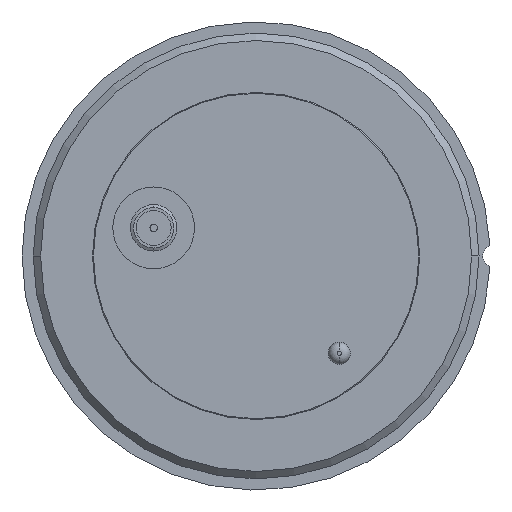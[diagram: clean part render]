
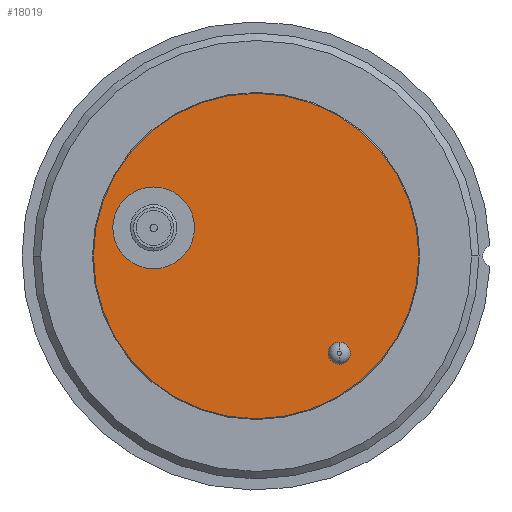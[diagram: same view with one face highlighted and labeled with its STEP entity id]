
A CAD part, front view. The second image highlights one B-rep face of the part: STEP entity #18019.
In plain terms, the highlighted planar face has unit normal (0, -1, 0).
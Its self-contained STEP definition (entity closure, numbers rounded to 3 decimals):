
#1100 = PLANE ( 'NONE',  #13354 ) ;
#1102 = FACE_BOUND ( 'NONE', #21698, .T. ) ;
#1103 = FACE_BOUND ( 'NONE', #21691, .T. ) ;
#1107 = CARTESIAN_POINT ( 'NONE',  ( -15.75, 0., 0. ) ) ;
#1108 = FACE_OUTER_BOUND ( 'NONE', #21699, .T. ) ;
#1109 = DIRECTION ( 'NONE',  ( 0., -1., 0. ) ) ;
#1110 = DIRECTION ( 'NONE',  ( 1., 0., 0. ) ) ;
#5593 = CARTESIAN_POINT ( 'NONE',  ( 11.2, 0., -13.1 ) ) ;
#5594 = DIRECTION ( 'NONE',  ( 0., -1., 0. ) ) ;
#5595 = DIRECTION ( 'NONE',  ( 1., 0., 0. ) ) ;
#9728 = CARTESIAN_POINT ( 'NONE',  ( -13.789, 0., 3.789 ) ) ;
#9730 = DIRECTION ( 'NONE',  ( 0., -1., 0. ) ) ;
#9731 = DIRECTION ( 'NONE',  ( 0., 0., 1. ) ) ;
#12782 = AXIS2_PLACEMENT_3D ( 'NONE', #14018, #14019, #14020 ) ;
#12783 = CIRCLE ( 'NONE', #12782, 21.9 ) ;
#13354 = AXIS2_PLACEMENT_3D ( 'NONE', #1107, #1109, #1110 ) ;
#13555 = EDGE_CURVE ( 'NONE', #31828, #31824, #14910, .T. ) ;
#13556 = EDGE_CURVE ( 'NONE', #18499, #18497, #14906, .T. ) ;
#13557 = EDGE_CURVE ( 'NONE', #18503, #18502, #14899, .T. ) ;
#14018 = CARTESIAN_POINT ( 'NONE',  ( 0., 0., 0. ) ) ;
#14019 = DIRECTION ( 'NONE',  ( 0., 1., 0. ) ) ;
#14020 = DIRECTION ( 'NONE',  ( -1., 0., 0. ) ) ;
#14894 = AXIS2_PLACEMENT_3D ( 'NONE', #23984, #23986, #23988 ) ;
#14896 = AXIS2_PLACEMENT_3D ( 'NONE', #23970, #23973, #23976 ) ;
#14898 = AXIS2_PLACEMENT_3D ( 'NONE', #23960, #23962, #23964 ) ;
#14899 = CIRCLE ( 'NONE', #14894, 5.5 ) ;
#14906 = CIRCLE ( 'NONE', #14896, 1.5 ) ;
#14910 = CIRCLE ( 'NONE', #14898, 21.9 ) ;
#17840 = EDGE_CURVE ( 'NONE', #31824, #31828, #12783, .T. ) ;
#18019 = ADVANCED_FACE ( 'NONE', ( #1102, #1103, #1108 ), #1100, .T. ) ;
#18497 = VERTEX_POINT ( 'NONE', #42555 ) ;
#18499 = VERTEX_POINT ( 'NONE', #42559 ) ;
#18502 = VERTEX_POINT ( 'NONE', #42565 ) ;
#18503 = VERTEX_POINT ( 'NONE', #42567 ) ;
#21691 = EDGE_LOOP ( 'NONE', ( #49819, #49818 ) ) ;
#21698 = EDGE_LOOP ( 'NONE', ( #49821, #49820 ) ) ;
#21699 = EDGE_LOOP ( 'NONE', ( #49817, #49816 ) ) ;
#23960 = CARTESIAN_POINT ( 'NONE',  ( 0., 0., 0. ) ) ;
#23962 = DIRECTION ( 'NONE',  ( 0., 1., 0. ) ) ;
#23964 = DIRECTION ( 'NONE',  ( -1., 0., 0. ) ) ;
#23970 = CARTESIAN_POINT ( 'NONE',  ( 11.2, 0., -13.1 ) ) ;
#23973 = DIRECTION ( 'NONE',  ( 0., -1., 0. ) ) ;
#23976 = DIRECTION ( 'NONE',  ( 1., 0., 0. ) ) ;
#23984 = CARTESIAN_POINT ( 'NONE',  ( -13.789, 0., 3.789 ) ) ;
#23986 = DIRECTION ( 'NONE',  ( 0., -1., 0. ) ) ;
#23988 = DIRECTION ( 'NONE',  ( 0., 0., 1. ) ) ;
#31824 = VERTEX_POINT ( 'NONE', #61320 ) ;
#31828 = VERTEX_POINT ( 'NONE', #61326 ) ;
#42555 = CARTESIAN_POINT ( 'NONE',  ( 11.2, 0., -14.6 ) ) ;
#42559 = CARTESIAN_POINT ( 'NONE',  ( 11.2, 0., -11.6 ) ) ;
#42565 = CARTESIAN_POINT ( 'NONE',  ( -13.789, 0., 9.289 ) ) ;
#42567 = CARTESIAN_POINT ( 'NONE',  ( -13.789, 0., -1.711 ) ) ;
#49816 = ORIENTED_EDGE ( 'NONE', *, *, #13555, .F. ) ;
#49817 = ORIENTED_EDGE ( 'NONE', *, *, #17840, .F. ) ;
#49818 = ORIENTED_EDGE ( 'NONE', *, *, #53560, .F. ) ;
#49819 = ORIENTED_EDGE ( 'NONE', *, *, #13557, .F. ) ;
#49820 = ORIENTED_EDGE ( 'NONE', *, *, #55691, .F. ) ;
#49821 = ORIENTED_EDGE ( 'NONE', *, *, #13556, .F. ) ;
#53560 = EDGE_CURVE ( 'NONE', #18502, #18503, #66294, .T. ) ;
#55691 = EDGE_CURVE ( 'NONE', #18497, #18499, #66748, .T. ) ;
#61320 = CARTESIAN_POINT ( 'NONE',  ( -21.9, 0., 0. ) ) ;
#61326 = CARTESIAN_POINT ( 'NONE',  ( 21.9, 0., 0. ) ) ;
#66294 = CIRCLE ( 'NONE', #66296, 5.5 ) ;
#66296 = AXIS2_PLACEMENT_3D ( 'NONE', #9728, #9730, #9731 ) ;
#66748 = CIRCLE ( 'NONE', #66750, 1.5 ) ;
#66750 = AXIS2_PLACEMENT_3D ( 'NONE', #5593, #5594, #5595 ) ;
